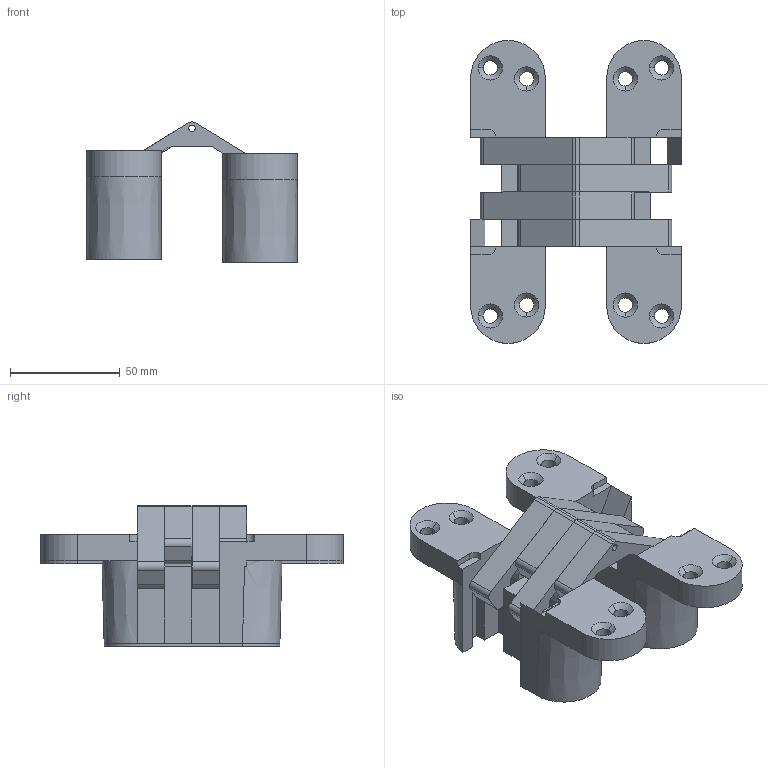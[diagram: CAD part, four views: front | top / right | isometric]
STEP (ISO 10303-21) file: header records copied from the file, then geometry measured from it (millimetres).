
FILE_DESCRIPTION (( 'STEP AP203' ), '1' );
FILE_NAME ('KH-50-6 3D ASS''Y.STEP', '2012-12-26T07:43:02', ( '' ), ( '' ), 'SwSTEP 2.0', 'SolidWorks 2010', '' );
FILE_SCHEMA (( 'CONFIG_CONTROL_DESIGN' ));
Length unit declared in the file: millimetre
Products named in the file (3): kh-50-6 ARM; BODY (1)_1; KH-50-6 3D ASS''Y
Assembly tree (6 placements, depth 2):
  KH-50-6 3D ASS''Y
    kh-50-6 ARM  x4
    BODY (1)_1  x2
Bounding box: 96 x 138 x 64 mm (x, y, z)
Volume: 219765.3 mm3; surface area: 61644.2 mm2
Topology: 6 solids, 6 shells, 222 faces, 600 edges, 390 vertices
Faces by surface type: plane 126, cylinder 76, cone 16, bspline 4
Entity records: 3320 total; most frequent: CARTESIAN_POINT 668, DIRECTION 473, ORIENTED_EDGE 468, EDGE_CURVE 234, AXIS2_PLACEMENT_3D 158, LINE 157, VECTOR 157, VERTEX_POINT 151
